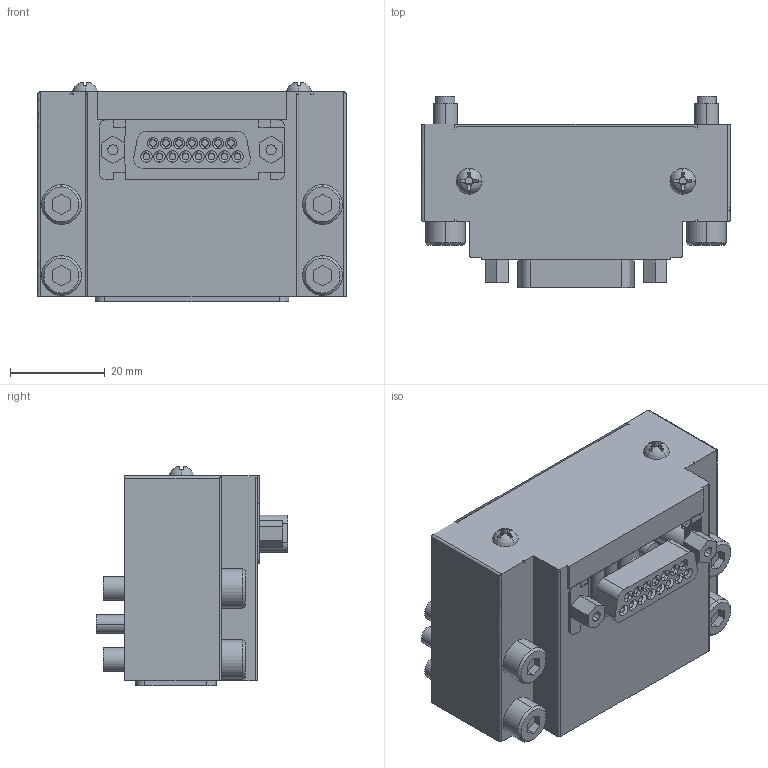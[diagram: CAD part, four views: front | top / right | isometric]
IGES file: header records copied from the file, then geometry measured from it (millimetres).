
Start section: 3D InterOp IGES (v. 2022 1.0.0), Spatial Corp. Copyright (c) 1999-2020.
Global section: file name: KHB-45~300RS-D515C_ver1.igs; native system: Spatial Corp.; preprocessor: 3D InterOp GENERIC/IGES 3.0; author: Noname; organization: Noname; date: 20260427.144452; units: millimetre
Bounding box: 65 x 40.44 x 46.23 mm (x, y, z)
Surface area: 21985.1 mm2 (no closed solid volume)
Topology: 0 solids, 0 shells, 548 faces, 2570 edges, 2540 vertices
Faces by surface type: revolution 283, extrusion 265
